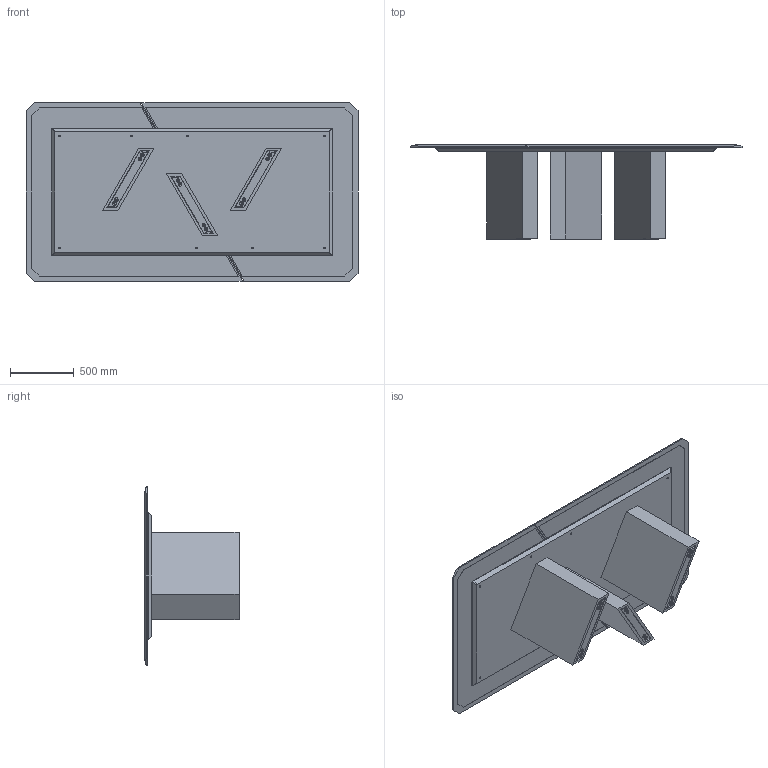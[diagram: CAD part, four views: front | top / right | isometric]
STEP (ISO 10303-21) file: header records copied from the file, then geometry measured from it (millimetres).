
FILE_DESCRIPTION (( 'STEP AP214' ), '1' );
FILE_NAME ('PlatiumClass_260 x140.STEP', '2026-05-05T09:30:23', ( '' ), ( '' ), 'SwSTEP 2.0', 'SolidWorks 2025', '' );
FILE_SCHEMA (( 'AUTOMOTIVE_DESIGN' ));
Length unit declared in the file: millimetre
Products named in the file (12): PlatiumClass_260 x140; PlatinumClass_Assieme_SOTTOPIANO_GOMMINA_PlatiumClass_260 x 140; PlatiumClass_SOTTOPIANO_SOTTOPIANO_260 x 140; PlatiumClass_PIANO_(260 280 300) x (120 e 140)_Buratti_TAVOLO_260 x 140 OPZ40; PlatiumClass_GAMBA_h70; PlatinumClass_ASSIEME_GAMBA_UNICO_MARMO; PlatiumClass_GOMMINA_SOTTOPIANO_PlatiumClass_260 x 140_GOMMINA_SOTTOPIANO; PlatiumClass_LAMIERA_Lamiera 260 x140 OPZ 40; PlatinumClass_tavolo_300 x 120_PlatiumClass_PIANO_260 x140 OPZ40; PlatiumClass_PIASTRINA_GAMBA; PlatiumClass_RIVESTIMENTO_UNICO_GAMBA_MARMO; PlatiumClass_DISTANZIALE_TAVOLO_Piatto_Metallo_Piano_140_xD
Assembly tree (18 placements, depth 3):
  PlatiumClass_260 x140
    PlatinumClass_Assieme_SOTTOPIANO_GOMMINA_PlatiumClass_260 x 140
      PlatiumClass_SOTTOPIANO_SOTTOPIANO_260 x 140
      PlatiumClass_GOMMINA_SOTTOPIANO_PlatiumClass_260 x 140_GOMMINA_SOTTOPIANO
    PlatinumClass_ASSIEME_GAMBA_UNICO_MARMO  x3
      PlatiumClass_GAMBA_h70
      PlatiumClass_RIVESTIMENTO_UNICO_GAMBA_MARMO
      PlatiumClass_PIASTRINA_GAMBA
    PlatinumClass_tavolo_300 x 120_PlatiumClass_PIANO_260 x140 OPZ40
      PlatiumClass_PIANO_(260 280 300) x (120 e 140)_Buratti_TAVOLO_260 x 140 OPZ40  x2
      PlatiumClass_DISTANZIALE_TAVOLO_Piatto_Metallo_Piano_140_xD
      PlatiumClass_LAMIERA_Lamiera 260 x140 OPZ 40  x2
Bounding box: 2600 x 736.5 x 1400 mm (x, y, z)
Volume: 253689180.1 mm3; surface area: 26850519.5 mm2
Topology: 25 solids, 25 shells, 612 faces, 1514 edges, 996 vertices
Faces by surface type: plane 340, cylinder 256, cone 16
Entity records: 9209 total; most frequent: CARTESIAN_POINT 1822, DIRECTION 1521, ORIENTED_EDGE 1390, EDGE_CURVE 695, AXIS2_PLACEMENT_3D 553, VERTEX_POINT 462, VECTOR 415, LINE 415
